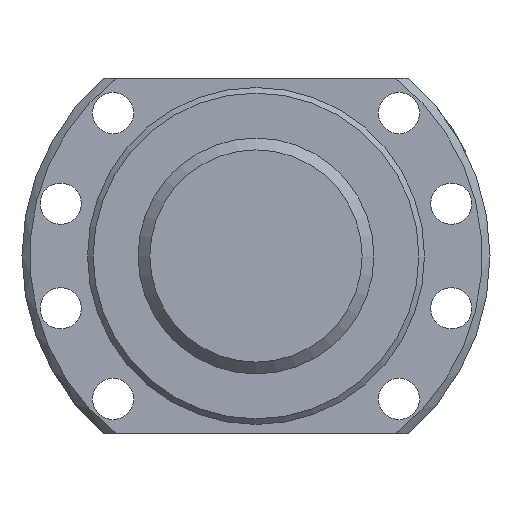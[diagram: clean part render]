
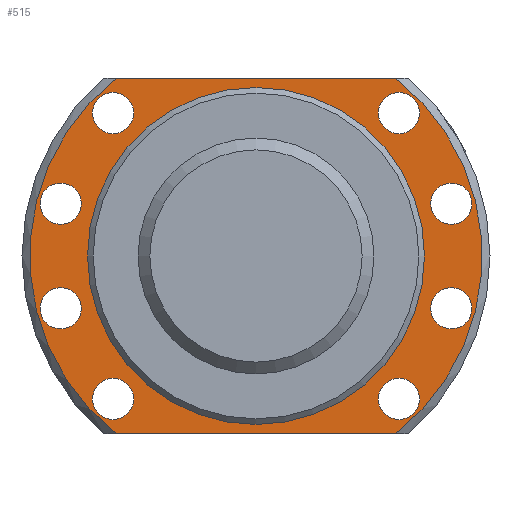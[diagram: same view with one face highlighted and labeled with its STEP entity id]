
A CAD part, left-side view. The second image highlights one B-rep face of the part: STEP entity #515.
In plain terms, the highlighted planar face has unit normal (-1, 0, 0).
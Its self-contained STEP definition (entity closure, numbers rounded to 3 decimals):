
#34=PLANE('',#599);
#61=CIRCLE('',#567,60.417);
#81=CIRCLE('',#598,60.417);
#82=CIRCLE('',#600,45.);
#83=CIRCLE('',#601,5.5);
#84=CIRCLE('',#602,5.5);
#85=CIRCLE('',#603,5.5);
#86=CIRCLE('',#604,5.5);
#87=CIRCLE('',#605,5.5);
#88=CIRCLE('',#606,5.5);
#89=CIRCLE('',#607,5.5);
#90=CIRCLE('',#608,5.5);
#150=ORIENTED_EDGE('',*,*,#251,.T.);
#151=ORIENTED_EDGE('',*,*,#252,.F.);
#152=ORIENTED_EDGE('',*,*,#249,.F.);
#153=ORIENTED_EDGE('',*,*,#253,.F.);
#154=ORIENTED_EDGE('',*,*,#220,.F.);
#155=ORIENTED_EDGE('',*,*,#254,.T.);
#156=ORIENTED_EDGE('',*,*,#255,.T.);
#157=ORIENTED_EDGE('',*,*,#256,.T.);
#158=ORIENTED_EDGE('',*,*,#257,.T.);
#159=ORIENTED_EDGE('',*,*,#258,.T.);
#160=ORIENTED_EDGE('',*,*,#259,.T.);
#161=ORIENTED_EDGE('',*,*,#260,.T.);
#162=ORIENTED_EDGE('',*,*,#261,.T.);
#220=EDGE_CURVE('',#275,#276,#61,.T.);
#249=EDGE_CURVE('',#300,#301,#81,.T.);
#251=EDGE_CURVE('',#302,#302,#82,.T.);
#252=EDGE_CURVE('',#301,#275,#323,.T.);
#253=EDGE_CURVE('',#276,#300,#324,.T.);
#254=EDGE_CURVE('',#303,#303,#83,.T.);
#255=EDGE_CURVE('',#304,#304,#84,.T.);
#256=EDGE_CURVE('',#305,#305,#85,.T.);
#257=EDGE_CURVE('',#306,#306,#86,.T.);
#258=EDGE_CURVE('',#307,#307,#87,.T.);
#259=EDGE_CURVE('',#308,#308,#88,.T.);
#260=EDGE_CURVE('',#309,#309,#89,.T.);
#261=EDGE_CURVE('',#310,#310,#90,.T.);
#275=VERTEX_POINT('',#835);
#276=VERTEX_POINT('',#837);
#300=VERTEX_POINT('',#922);
#301=VERTEX_POINT('',#924);
#302=VERTEX_POINT('',#931);
#303=VERTEX_POINT('',#935);
#304=VERTEX_POINT('',#937);
#305=VERTEX_POINT('',#939);
#306=VERTEX_POINT('',#941);
#307=VERTEX_POINT('',#943);
#308=VERTEX_POINT('',#945);
#309=VERTEX_POINT('',#947);
#310=VERTEX_POINT('',#949);
#323=LINE('',#932,#331);
#324=LINE('',#933,#332);
#331=VECTOR('',#724,1000.);
#332=VECTOR('',#725,1000.);
#365=EDGE_LOOP('',(#150));
#366=EDGE_LOOP('',(#151,#152,#153,#154));
#367=EDGE_LOOP('',(#155));
#368=EDGE_LOOP('',(#156));
#369=EDGE_LOOP('',(#157));
#370=EDGE_LOOP('',(#158));
#371=EDGE_LOOP('',(#159));
#372=EDGE_LOOP('',(#160));
#373=EDGE_LOOP('',(#161));
#374=EDGE_LOOP('',(#162));
#441=FACE_BOUND('',#365,.T.);
#442=FACE_BOUND('',#366,.T.);
#443=FACE_BOUND('',#367,.T.);
#444=FACE_BOUND('',#368,.T.);
#445=FACE_BOUND('',#369,.T.);
#446=FACE_BOUND('',#370,.T.);
#447=FACE_BOUND('',#371,.T.);
#448=FACE_BOUND('',#372,.T.);
#449=FACE_BOUND('',#373,.T.);
#450=FACE_BOUND('',#374,.T.);
#515=ADVANCED_FACE('',(#441,#442,#443,#444,#445,#446,#447,#448,#449,#450),
#34,.T.);
#567=AXIS2_PLACEMENT_3D('',#836,#652,#653);
#598=AXIS2_PLACEMENT_3D('',#923,#718,#719);
#599=AXIS2_PLACEMENT_3D('',#929,#720,#721);
#600=AXIS2_PLACEMENT_3D('',#930,#722,#723);
#601=AXIS2_PLACEMENT_3D('',#934,#726,#727);
#602=AXIS2_PLACEMENT_3D('',#936,#728,#729);
#603=AXIS2_PLACEMENT_3D('',#938,#730,#731);
#604=AXIS2_PLACEMENT_3D('',#940,#732,#733);
#605=AXIS2_PLACEMENT_3D('',#942,#734,#735);
#606=AXIS2_PLACEMENT_3D('',#944,#736,#737);
#607=AXIS2_PLACEMENT_3D('',#946,#738,#739);
#608=AXIS2_PLACEMENT_3D('',#948,#740,#741);
#652=DIRECTION('',(1.,0.,0.));
#653=DIRECTION('',(0.,0.,-1.));
#718=DIRECTION('',(1.,0.,0.));
#719=DIRECTION('',(0.,0.,-1.));
#720=DIRECTION('',(-1.,0.,0.));
#721=DIRECTION('',(0.,0.,1.));
#722=DIRECTION('',(1.,0.,0.));
#723=DIRECTION('',(0.,0.,-1.));
#724=DIRECTION('',(0.,-1.,0.));
#725=DIRECTION('',(0.,1.,0.));
#726=DIRECTION('',(1.,0.,0.));
#727=DIRECTION('',(0.,0.,-1.));
#728=DIRECTION('',(1.,0.,0.));
#729=DIRECTION('',(0.,0.,-1.));
#730=DIRECTION('',(1.,0.,0.));
#731=DIRECTION('',(0.,0.,-1.));
#732=DIRECTION('',(1.,0.,0.));
#733=DIRECTION('',(0.,0.,-1.));
#734=DIRECTION('',(1.,0.,0.));
#735=DIRECTION('',(0.,0.,-1.));
#736=DIRECTION('',(1.,0.,0.));
#737=DIRECTION('',(0.,0.,-1.));
#738=DIRECTION('',(1.,0.,0.));
#739=DIRECTION('',(0.,0.,-1.));
#740=DIRECTION('',(1.,0.,0.));
#741=DIRECTION('',(0.,0.,-1.));
#835=CARTESIAN_POINT('',(5.,-37.335,47.5));
#836=CARTESIAN_POINT('',(5.,0.,0.));
#837=CARTESIAN_POINT('',(5.,-37.335,-47.5));
#922=CARTESIAN_POINT('',(5.,37.335,-47.5));
#923=CARTESIAN_POINT('',(5.,0.,0.));
#924=CARTESIAN_POINT('',(5.,37.335,47.5));
#929=CARTESIAN_POINT('',(5.,60.417,0.));
#930=CARTESIAN_POINT('',(5.,0.,0.));
#931=CARTESIAN_POINT('',(5.,0.,-45.));
#932=CARTESIAN_POINT('',(5.,60.417,47.5));
#933=CARTESIAN_POINT('',(5.,60.417,-47.5));
#934=CARTESIAN_POINT('',(5.,-52.16,13.976));
#935=CARTESIAN_POINT('',(5.,-52.16,8.476));
#936=CARTESIAN_POINT('',(5.,52.16,-13.976));
#937=CARTESIAN_POINT('',(5.,52.16,-19.476));
#938=CARTESIAN_POINT('',(5.,-52.16,-13.976));
#939=CARTESIAN_POINT('',(5.,-52.16,-19.476));
#940=CARTESIAN_POINT('',(5.,52.16,13.976));
#941=CARTESIAN_POINT('',(5.,52.16,8.476));
#942=CARTESIAN_POINT('',(5.,-38.184,-38.184));
#943=CARTESIAN_POINT('',(5.,-38.184,-43.684));
#944=CARTESIAN_POINT('',(5.,38.184,38.184));
#945=CARTESIAN_POINT('',(5.,38.184,32.684));
#946=CARTESIAN_POINT('',(5.,-38.184,38.184));
#947=CARTESIAN_POINT('',(5.,-38.184,32.684));
#948=CARTESIAN_POINT('',(5.,38.184,-38.184));
#949=CARTESIAN_POINT('',(5.,38.184,-43.684));
